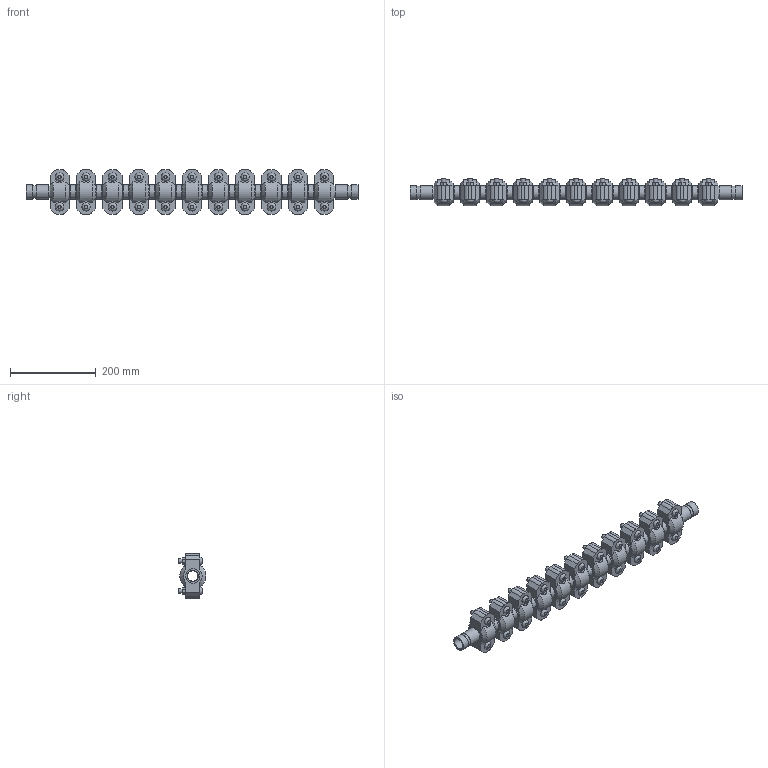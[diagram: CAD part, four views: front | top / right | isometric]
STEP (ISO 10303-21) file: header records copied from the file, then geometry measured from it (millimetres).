
FILE_DESCRIPTION(/* description */ ('VIC EXPANSION JOINT 11 COUPLINGS EXPANDED STYLE 155 (OGS)','CAx-IF Rec.Pracs.---Representation and Presentation of Product Manufacturing Information (PMI)---4.0---2014-10-13'),/* implementation_level */ '2;1');
FILE_NAME(/* name */ 'C:\Users\kkamble\AppData\Roaming\Autodesk\ApplicationPlugins\Victaulic.Temp\A474\Victaulic_IPS_Expansion Joint_Expanded_11 Couplings_Style 155 (OGS)_1 (25).stp',/* time_stamp */ '2021-06-26T23:51:29+02:00',/* author */ ('kkamble'),/* organization */ ('Victaulic'),/* preprocessor_version */ 'ST-DEVELOPER v17.2',/* originating_system */ 'Autodesk Inventor 2019',/* authorisation */ '');
FILE_SCHEMA (('AP242_MANAGED_MODEL_BASED_3D_ENGINEERING_MIM_LF { 1 0 10303 442 1 1 4 }'));
Length unit declared in the file: inch
Products named in the file (4): 155-01.0; Nipple-01.0; Nipple-01.0_1; 077-01.0
Assembly tree (23 placements, depth 2):
  155-01.0
    Nipple-01.0  x2
    Nipple-01.0_1  x10
    077-01.0  x11
Bounding box: 776.48 x 64.33 x 104.65 mm (x, y, z)
Volume: 1816108.3 mm3; surface area: 479896.7 mm2
Topology: 23 solids, 45 shells, 815 faces, 1955 edges, 1366 vertices
Faces by surface type: plane 468, cylinder 281, cone 44, bspline 22
Full cylindrical faces by diameter (mm): 9.525 x44, 11.43 x22, 24.511 x11, 26.645 x12, 30.226 x24, 33.401 x58
Entity records: 3081 total; most frequent: CARTESIAN_POINT 583, DIRECTION 509, ORIENTED_EDGE 410, AXIS2_PLACEMENT_3D 206, EDGE_CURVE 205, VERTEX_POINT 146, EDGE_LOOP 111, LINE 97
